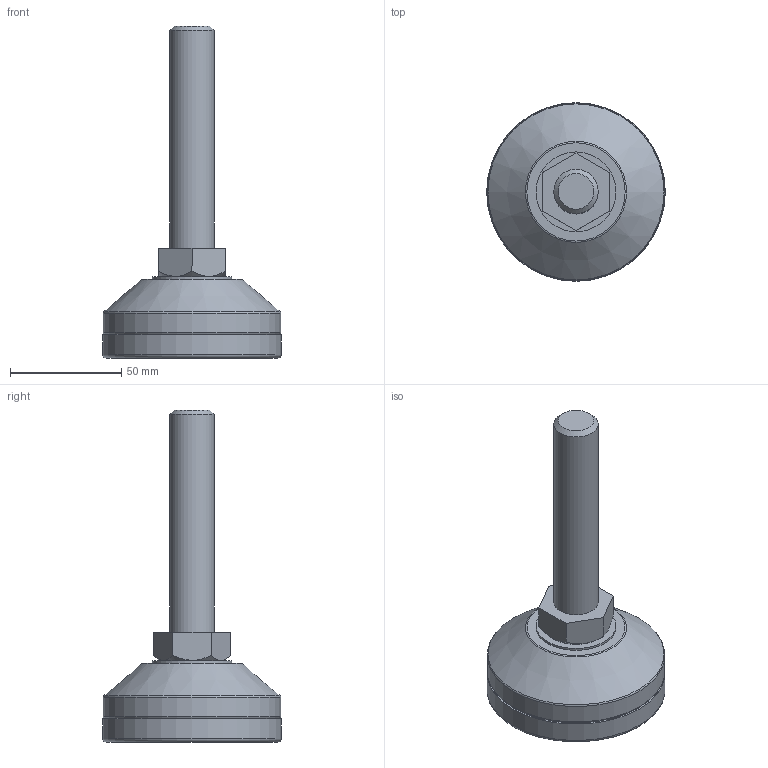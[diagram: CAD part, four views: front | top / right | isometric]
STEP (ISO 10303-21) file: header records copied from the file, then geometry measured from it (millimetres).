
FILE_DESCRIPTION(/* description */ (''),/* implementation_level */ '2;1');
FILE_NAME(/* name */ 'D:\조절자\FR\FR-M20-100L.stp',/* time_stamp */ '2016-03-14T14:37:33+09:00',/* author */ ('GS-DT-1-001'),/* organization */ (''),/* preprocessor_version */ 'ST-DEVELOPER v15.6',/* originating_system */ 'Autodesk Inventor LT ',/* authorisation */ '');
FILE_SCHEMA (('AUTOMOTIVE_DESIGN { 1 0 10303 214 3 1 1 }'));
Length unit declared in the file: millimetre
Products named in the file (1): FR-M20-100L
Bounding box: 80.4 x 80.4 x 149.5 mm (x, y, z)
Volume: 183309.1 mm3; surface area: 44482.4 mm2
Topology: 5 solids, 5 shells, 68 faces, 118 edges, 72 vertices
Faces by surface type: plane 28, torus 15, cylinder 15, cone 10
Full cylindrical faces by diameter (mm): 6.912 x1, 8 x1, 8.2 x1, 8.3 x1, 16 x1, 20 x1, 30 x1, 36 x1, 50 x1, 57 x1, 61 x1, 71 x1, 75 x1, 80 x1, 80.4 x1
Entity records: 1424 total; most frequent: DIRECTION 266, CARTESIAN_POINT 227, ORIENTED_EDGE 152, AXIS2_PLACEMENT_3D 127, EDGE_LOOP 124, EDGE_CURVE 76, VERTEX_POINT 70, FACE_OUTER_BOUND 68
